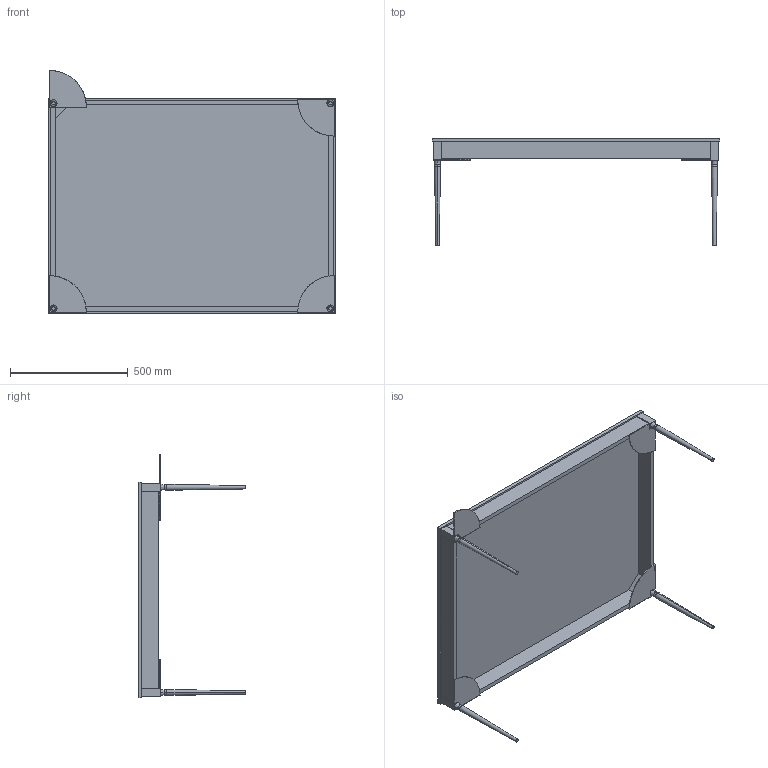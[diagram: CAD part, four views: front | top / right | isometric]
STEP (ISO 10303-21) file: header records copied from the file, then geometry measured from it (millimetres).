
FILE_DESCRIPTION (( 'STEP AP214' ), '1' );
FILE_NAME ('Draft_ASM_JL Coffee Table Asm_08-NOV-21.STEP', '2021-11-08T15:50:19', ( '' ), ( '' ), 'SwSTEP 2.0', 'SolidWorks 2021', '' );
FILE_SCHEMA (( 'AUTOMOTIVE_DESIGN' ));
Length unit declared in the file: millimetre
Products named in the file (1): Draft_ASM_JL Coffee Table Asm_08-NOV-21
Bounding box: 1219.2 x 454.02 x 1032.32 mm (x, y, z)
Volume: 20970427.5 mm3; surface area: 3125783.1 mm2
Topology: 1 solids, 1 shells, 91 faces, 236 edges, 152 vertices
Faces by surface type: bspline 91
Entity records: 3358 total; most frequent: CARTESIAN_POINT 1782, ORIENTED_EDGE 472, EDGE_CURVE 236, B_SPLINE_CURVE_WITH_KNOTS 197, VERTEX_POINT 152, EDGE_LOOP 96, FACE_OUTER_BOUND 91, ADVANCED_FACE 91
